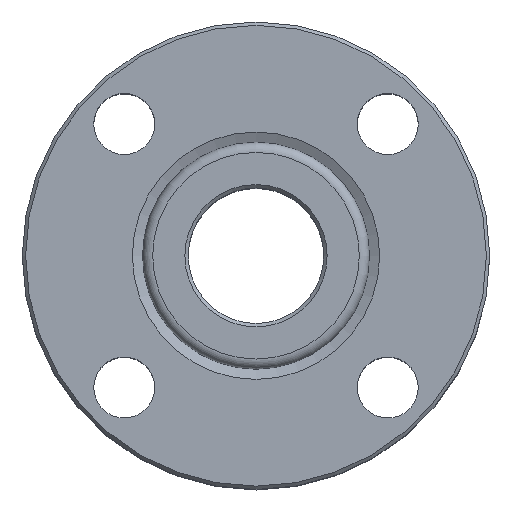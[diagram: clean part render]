
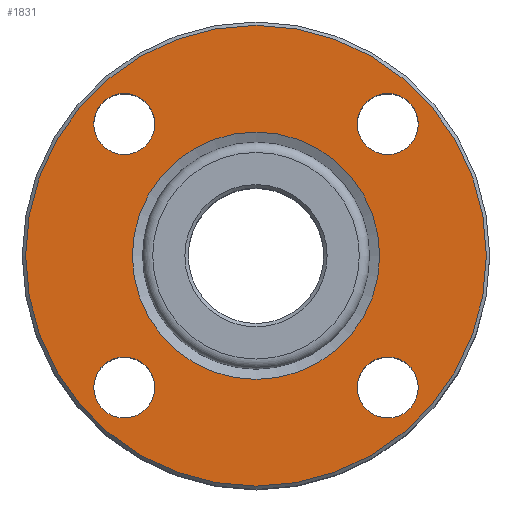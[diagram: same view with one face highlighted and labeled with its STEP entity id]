
A CAD part, top view. The second image highlights one B-rep face of the part: STEP entity #1831.
In plain terms, the highlighted planar face has unit normal (0, 0, 1).
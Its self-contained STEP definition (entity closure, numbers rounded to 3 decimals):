
#73=PLANE('',#2009);
#309=FACE_BOUND('',#446,.T.);
#310=FACE_BOUND('',#447,.T.);
#311=FACE_BOUND('',#448,.T.);
#312=FACE_BOUND('',#449,.T.);
#313=FACE_BOUND('',#450,.T.);
#329=FACE_OUTER_BOUND('',#445,.T.);
#445=EDGE_LOOP('',(#1286));
#446=EDGE_LOOP('',(#1287));
#447=EDGE_LOOP('',(#1288));
#448=EDGE_LOOP('',(#1289));
#449=EDGE_LOOP('',(#1290));
#450=EDGE_LOOP('',(#1291));
#656=CIRCLE('',#2008,68.);
#657=CIRCLE('',#2010,9.);
#658=CIRCLE('',#2011,9.);
#659=CIRCLE('',#2012,9.);
#660=CIRCLE('',#2013,9.);
#661=CIRCLE('',#2014,36.5);
#809=VERTEX_POINT('',#3090);
#810=VERTEX_POINT('',#3094);
#811=VERTEX_POINT('',#3096);
#812=VERTEX_POINT('',#3098);
#813=VERTEX_POINT('',#3100);
#814=VERTEX_POINT('',#3102);
#997=EDGE_CURVE('',#809,#809,#656,.T.);
#998=EDGE_CURVE('',#810,#810,#657,.T.);
#999=EDGE_CURVE('',#811,#811,#658,.T.);
#1000=EDGE_CURVE('',#812,#812,#659,.T.);
#1001=EDGE_CURVE('',#813,#813,#660,.T.);
#1002=EDGE_CURVE('',#814,#814,#661,.T.);
#1286=ORIENTED_EDGE('',*,*,#997,.F.);
#1287=ORIENTED_EDGE('',*,*,#998,.F.);
#1288=ORIENTED_EDGE('',*,*,#999,.F.);
#1289=ORIENTED_EDGE('',*,*,#1000,.F.);
#1290=ORIENTED_EDGE('',*,*,#1001,.F.);
#1291=ORIENTED_EDGE('',*,*,#1002,.T.);
#1831=ADVANCED_FACE('',(#329,#309,#310,#311,#312,#313),#73,.F.);
#2008=AXIS2_PLACEMENT_3D('',#3092,#2280,#2281);
#2009=AXIS2_PLACEMENT_3D('',#3093,#2282,#2283);
#2010=AXIS2_PLACEMENT_3D('',#3095,#2284,#2285);
#2011=AXIS2_PLACEMENT_3D('',#3097,#2286,#2287);
#2012=AXIS2_PLACEMENT_3D('',#3099,#2288,#2289);
#2013=AXIS2_PLACEMENT_3D('',#3101,#2290,#2291);
#2014=AXIS2_PLACEMENT_3D('',#3103,#2292,#2293);
#2280=DIRECTION('center_axis',(0.,0.,-1.));
#2281=DIRECTION('ref_axis',(-1.,0.,0.));
#2282=DIRECTION('center_axis',(0.,0.,-1.));
#2283=DIRECTION('ref_axis',(-1.,0.,0.));
#2284=DIRECTION('center_axis',(0.,0.,1.));
#2285=DIRECTION('ref_axis',(1.,0.,0.));
#2286=DIRECTION('center_axis',(0.,0.,1.));
#2287=DIRECTION('ref_axis',(1.,0.,0.));
#2288=DIRECTION('center_axis',(0.,0.,1.));
#2289=DIRECTION('ref_axis',(1.,0.,0.));
#2290=DIRECTION('center_axis',(0.,0.,1.));
#2291=DIRECTION('ref_axis',(1.,0.,0.));
#2292=DIRECTION('center_axis',(0.,0.,-1.));
#2293=DIRECTION('ref_axis',(0.,1.,0.));
#3090=CARTESIAN_POINT('',(68.,0.,43.5));
#3092=CARTESIAN_POINT('Origin',(0.,0.,43.5));
#3093=CARTESIAN_POINT('Origin',(0.,0.,43.5));
#3094=CARTESIAN_POINT('',(-47.891,38.891,43.5));
#3095=CARTESIAN_POINT('Origin',(-38.891,38.891,43.5));
#3096=CARTESIAN_POINT('',(-47.891,-38.891,43.5));
#3097=CARTESIAN_POINT('Origin',(-38.891,-38.891,43.5));
#3098=CARTESIAN_POINT('',(29.891,-38.891,43.5));
#3099=CARTESIAN_POINT('Origin',(38.891,-38.891,43.5));
#3100=CARTESIAN_POINT('',(29.891,38.891,43.5));
#3101=CARTESIAN_POINT('Origin',(38.891,38.891,43.5));
#3102=CARTESIAN_POINT('',(0.,-36.5,43.5));
#3103=CARTESIAN_POINT('Origin',(0.,0.,43.5));
